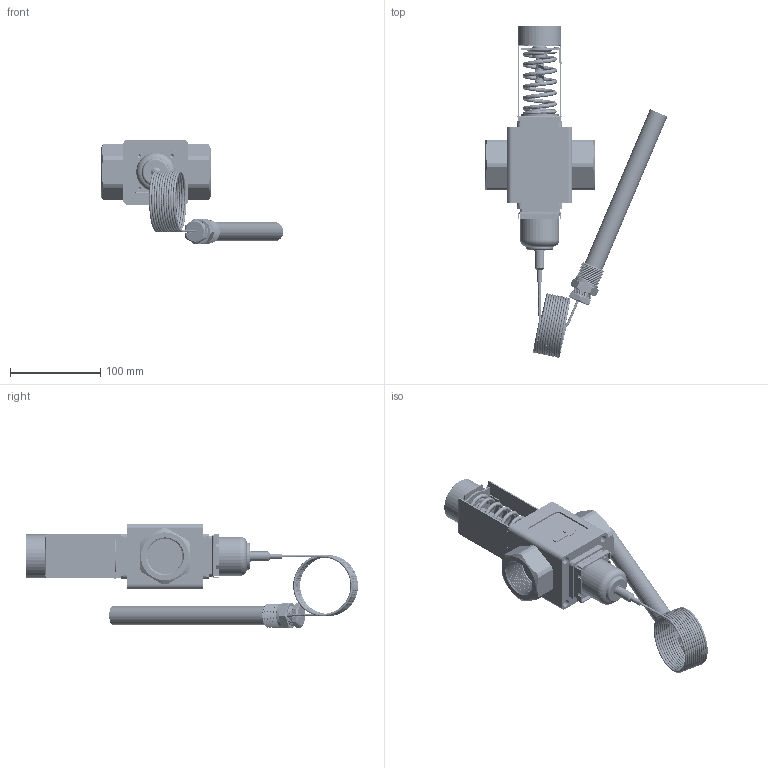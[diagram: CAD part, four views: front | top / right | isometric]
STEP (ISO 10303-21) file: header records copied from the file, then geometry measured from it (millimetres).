
FILE_DESCRIPTION(/* description */ (''),/* implementation_level */ '2;1');
FILE_NAME(/* name */ 'YWV-1-1-4_ASS.step',/* time_stamp */ '2026-09-07T10:35:16+08:00',/* author */ (''),/* organization */ (''),/* preprocessor_version */ '',/* originating_system */ '',/* authorisation */ '');
FILE_SCHEMA (('AUTOMOTIVE_DESIGN { 1 0 10303 214 3 1 1 1 }'));
Products named in the file (31): 21; 20; 19; 18; 28; 27; 26; 24; 23; 16; 15; 36; 35; 30; 29; 13; 12; 11; 10; 9; 8; 7; 6; 5; 4; 3; 2; 25; 17; 14; 1
Assembly tree (36 placements, depth 4):
  1
    2
    3
    4
    5
    6
    7
    8
    9
    10
    11
    12
    13
    14
      15
      16
      17
        18  x2
        19
        20
        21
      23
      24
    25
      26
      27
      28
    29  x2
    30  x4
    35
    36  x2
Bounding box: 201.93 x 367 x 115.42 mm (x, y, z)
Volume: 510586.3 mm3; surface area: 283887.3 mm2
Topology: 51 solids, 52 shells, 1520 faces, 3819 edges, 2468 vertices
Faces by surface type: cylinder 644, plane 553, cone 108, bspline 104, torus 97, sphere 14
Full cylindrical faces by diameter (mm): 2 x1, 2.7 x1, 3.3 x104, 5.5 x1, 8 x1, 8.5 x8, 10.5 x1, 14.5 x1, 16 x4, 18 x1, 19 x1, 19.3 x1, 20.8 x1, 21 x9, 22 x1, 26.44 x1, 30 x1, 37 x2, 39 x1, 43 x1, 58 x4, 64 x2
Entity records: 95161 total; most frequent: CARTESIAN_POINT 69784, ORIENTED_EDGE 5172, DIRECTION 4866, EDGE_CURVE 2586, AXIS2_PLACEMENT_3D 1787, VERTEX_POINT 1703, LINE 1292, VECTOR 1292
